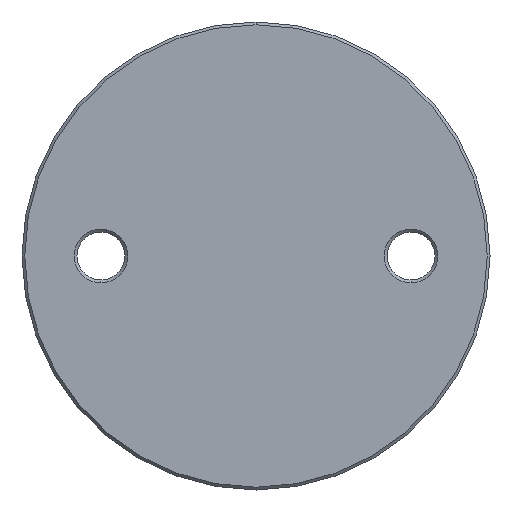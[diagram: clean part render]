
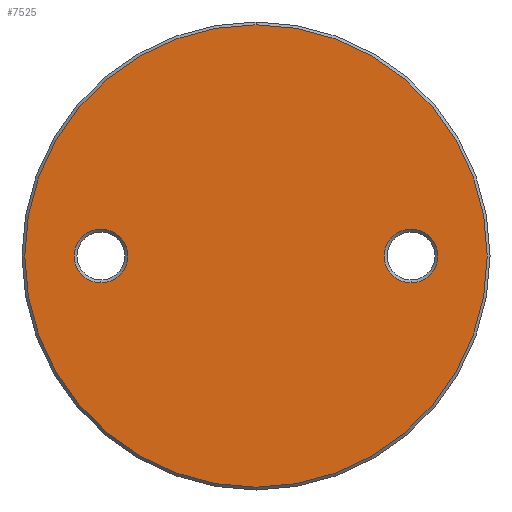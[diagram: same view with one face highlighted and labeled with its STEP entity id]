
A CAD part, front view. The second image highlights one B-rep face of the part: STEP entity #7525.
In plain terms, the highlighted planar face has unit normal (0, -1, 0).
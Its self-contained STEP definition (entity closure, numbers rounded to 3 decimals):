
#235 = FACE_BOUND ( 'NONE', #2804, .T. ) ;
#369 = DIRECTION ( 'NONE',  ( 0., 0., -1. ) ) ;
#457 = DIRECTION ( 'NONE',  ( 0., -1., 0. ) ) ;
#687 = VERTEX_POINT ( 'NONE', #4404 ) ;
#851 = EDGE_CURVE ( 'NONE', #7246, #5076, #6498, .T. ) ;
#992 = CIRCLE ( 'NONE', #3509, 4.75 ) ;
#1027 = AXIS2_PLACEMENT_3D ( 'NONE', #1820, #5419, #2512 ) ;
#1133 = EDGE_CURVE ( 'NONE', #7254, #2904, #4391, .T. ) ;
#1153 = CIRCLE ( 'NONE', #4241, 41. ) ;
#1478 = ORIENTED_EDGE ( 'NONE', *, *, #6017, .T. ) ;
#1539 = CARTESIAN_POINT ( 'NONE',  ( -27.5, -3., 0. ) ) ;
#1644 = FACE_BOUND ( 'NONE', #7626, .T. ) ;
#1772 = AXIS2_PLACEMENT_3D ( 'NONE', #2201, #6916, #6863 ) ;
#1820 = CARTESIAN_POINT ( 'NONE',  ( 0., -3., 41.5 ) ) ;
#1905 = CARTESIAN_POINT ( 'NONE',  ( -27.5, -3., -4.75 ) ) ;
#2084 = DIRECTION ( 'NONE',  ( 0., 1., 0. ) ) ;
#2201 = CARTESIAN_POINT ( 'NONE',  ( 27.5, -3., 0. ) ) ;
#2362 = DIRECTION ( 'NONE',  ( 0., 0., -1. ) ) ;
#2512 = DIRECTION ( 'NONE',  ( 0., 0., -1. ) ) ;
#2804 = EDGE_LOOP ( 'NONE', ( #7279, #3230 ) ) ;
#2826 = CARTESIAN_POINT ( 'NONE',  ( 27.5, -3., 4.75 ) ) ;
#2904 = VERTEX_POINT ( 'NONE', #5197 ) ;
#3044 = CARTESIAN_POINT ( 'NONE',  ( 0., -3., 0. ) ) ;
#3155 = CARTESIAN_POINT ( 'NONE',  ( 27.5, -3., -4.75 ) ) ;
#3230 = ORIENTED_EDGE ( 'NONE', *, *, #6265, .T. ) ;
#3355 = DIRECTION ( 'NONE',  ( 0., 1., 0. ) ) ;
#3509 = AXIS2_PLACEMENT_3D ( 'NONE', #1539, #3355, #369 ) ;
#3698 = EDGE_CURVE ( 'NONE', #6616, #687, #992, .T. ) ;
#3752 = DIRECTION ( 'NONE',  ( 0., 1., 0. ) ) ;
#4082 = CIRCLE ( 'NONE', #4153, 4.75 ) ;
#4153 = AXIS2_PLACEMENT_3D ( 'NONE', #5402, #3752, #6028 ) ;
#4241 = AXIS2_PLACEMENT_3D ( 'NONE', #3044, #5298, #2362 ) ;
#4326 = CARTESIAN_POINT ( 'NONE',  ( 0., -3., -41. ) ) ;
#4391 = CIRCLE ( 'NONE', #5309, 41. ) ;
#4404 = CARTESIAN_POINT ( 'NONE',  ( -27.5, -3., 4.75 ) ) ;
#4509 = EDGE_CURVE ( 'NONE', #2904, #7254, #1153, .T. ) ;
#4773 = PLANE ( 'NONE',  #1027 ) ;
#4946 = DIRECTION ( 'NONE',  ( 0., 0., -1. ) ) ;
#5076 = VERTEX_POINT ( 'NONE', #2826 ) ;
#5079 = ORIENTED_EDGE ( 'NONE', *, *, #3698, .T. ) ;
#5197 = CARTESIAN_POINT ( 'NONE',  ( 0., -3., 41. ) ) ;
#5266 = FACE_OUTER_BOUND ( 'NONE', #6381, .T. ) ;
#5298 = DIRECTION ( 'NONE',  ( 0., -1., 0. ) ) ;
#5309 = AXIS2_PLACEMENT_3D ( 'NONE', #5874, #457, #6406 ) ;
#5369 = AXIS2_PLACEMENT_3D ( 'NONE', #6716, #2084, #4946 ) ;
#5402 = CARTESIAN_POINT ( 'NONE',  ( -27.5, -3., 0. ) ) ;
#5419 = DIRECTION ( 'NONE',  ( 0., -1., 0. ) ) ;
#5874 = CARTESIAN_POINT ( 'NONE',  ( 0., -3., 0. ) ) ;
#6017 = EDGE_CURVE ( 'NONE', #687, #6616, #4082, .T. ) ;
#6028 = DIRECTION ( 'NONE',  ( 0., 0., -1. ) ) ;
#6265 = EDGE_CURVE ( 'NONE', #5076, #7246, #7187, .T. ) ;
#6381 = EDGE_LOOP ( 'NONE', ( #7556, #7428 ) ) ;
#6406 = DIRECTION ( 'NONE',  ( 0., 0., -1. ) ) ;
#6498 = CIRCLE ( 'NONE', #5369, 4.75 ) ;
#6616 = VERTEX_POINT ( 'NONE', #1905 ) ;
#6716 = CARTESIAN_POINT ( 'NONE',  ( 27.5, -3., 0. ) ) ;
#6863 = DIRECTION ( 'NONE',  ( 0., 0., -1. ) ) ;
#6916 = DIRECTION ( 'NONE',  ( 0., 1., 0. ) ) ;
#7187 = CIRCLE ( 'NONE', #1772, 4.75 ) ;
#7246 = VERTEX_POINT ( 'NONE', #3155 ) ;
#7254 = VERTEX_POINT ( 'NONE', #4326 ) ;
#7279 = ORIENTED_EDGE ( 'NONE', *, *, #851, .T. ) ;
#7428 = ORIENTED_EDGE ( 'NONE', *, *, #1133, .T. ) ;
#7525 = ADVANCED_FACE ( 'NONE', ( #235, #1644, #5266 ), #4773, .T. ) ;
#7556 = ORIENTED_EDGE ( 'NONE', *, *, #4509, .T. ) ;
#7626 = EDGE_LOOP ( 'NONE', ( #5079, #1478 ) ) ;
